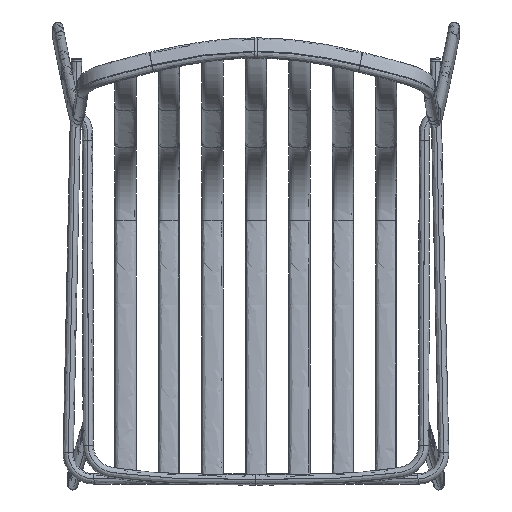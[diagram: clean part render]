
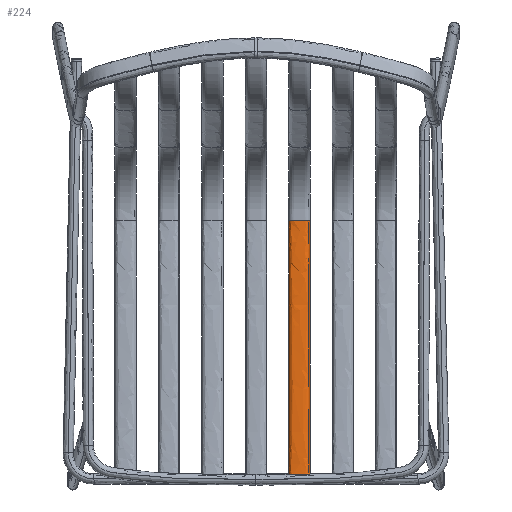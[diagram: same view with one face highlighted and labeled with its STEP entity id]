
A CAD part, top view. The second image highlights one B-rep face of the part: STEP entity #224.
In plain terms, the highlighted free-form (B-spline) face has degree [2, 3] with [7, 4] control points.
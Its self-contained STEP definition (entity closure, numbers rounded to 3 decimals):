
#224=ADVANCED_FACE('',(#640),#5631,.T.);
#640=FACE_OUTER_BOUND('',#1056,.T.);
#1056=EDGE_LOOP('',(#1517,#1518,#1519,#1520));
#1517=ORIENTED_EDGE('',*,*,#3313,.T.);
#1518=ORIENTED_EDGE('',*,*,#3317,.T.);
#1519=ORIENTED_EDGE('',*,*,#3295,.F.);
#1520=ORIENTED_EDGE('',*,*,#3318,.F.);
#3295=EDGE_CURVE('',#5111,#5108,#4563,.T.);
#3313=EDGE_CURVE('',#5120,#5121,#4205,.T.);
#3317=EDGE_CURVE('',#5121,#5108,#4569,.T.);
#3318=EDGE_CURVE('',#5120,#5111,#4570,.T.);
#4205=B_SPLINE_CURVE_WITH_KNOTS('',3,(#8339,#8340,#8341,#8342,#8343,#8344,
#8345,#8346,#8347,#8348,#8349,#8350,#8351,#8352,#8353,#8354,#8355,#8356,
#8357,#8358,#8359,#8360,#8361,#8362,#8363),.UNSPECIFIED.,.F.,.F.,(4,2,2,
2,2,3,3,2,2,3,4),(0.,2.37,4.74,7.11,
8.293,9.475,22.476,24.132,25.789,
29.117,31.982),.UNSPECIFIED.);
#4563=(
BOUNDED_CURVE()
B_SPLINE_CURVE(2,(#7998,#7999,#8000,#8001,#8002,#8003,#8004),
 .UNSPECIFIED.,.F.,.F.)
B_SPLINE_CURVE_WITH_KNOTS((3,2,2,3),(31.85,41.275,
54.275,63.7),.UNSPECIFIED.)
CURVE()
GEOMETRIC_REPRESENTATION_ITEM()
RATIONAL_B_SPLINE_CURVE((1.,0.707,1.,1.,1.,0.707,
1.))
REPRESENTATION_ITEM('')
);
#4569=(
BOUNDED_CURVE()
B_SPLINE_CURVE(3,(#8431,#8432,#8433,#8434),.UNSPECIFIED.,.F.,.F.)
B_SPLINE_CURVE_WITH_KNOTS((4,4),(6.628,303.241),
 .UNSPECIFIED.)
CURVE()
GEOMETRIC_REPRESENTATION_ITEM()
RATIONAL_B_SPLINE_CURVE((1.,1.,1.,1.))
REPRESENTATION_ITEM('')
);
#4570=(
BOUNDED_CURVE()
B_SPLINE_CURVE(3,(#8435,#8436,#8437,#8438),.UNSPECIFIED.,.F.,.F.)
B_SPLINE_CURVE_WITH_KNOTS((4,4),(6.261,303.241),
 .UNSPECIFIED.)
CURVE()
GEOMETRIC_REPRESENTATION_ITEM()
RATIONAL_B_SPLINE_CURVE((1.,1.,1.,1.))
REPRESENTATION_ITEM('')
);
#5108=VERTEX_POINT('',#7879);
#5111=VERTEX_POINT('',#7882);
#5120=VERTEX_POINT('',#7891);
#5121=VERTEX_POINT('',#7892);
#5631=(
BOUNDED_SURFACE()
B_SPLINE_SURFACE(2,3,((#7042,#7043,#7044,#7045),(#7046,#7047,#7048,#7049),
(#7050,#7051,#7052,#7053),(#7054,#7055,#7056,#7057),(#7058,#7059,#7060,
#7061),(#7062,#7063,#7064,#7065),(#7066,#7067,#7068,#7069)),
 .UNSPECIFIED.,.F.,.F.,.F.)
B_SPLINE_SURFACE_WITH_KNOTS((3,2,2,3),(4,4),(31.85,41.275,
54.275,63.7),(0.,303.241),.UNSPECIFIED.)
GEOMETRIC_REPRESENTATION_ITEM()
RATIONAL_B_SPLINE_SURFACE(((1.,1.,1.,1.),(0.707,0.707,
0.707,0.707),(1.,1.,1.,1.),(1.,1.,1.,1.),(1.,1.,
1.,1.),(0.707,0.707,0.707,0.707),
(1.,1.,1.,1.)))
REPRESENTATION_ITEM('')
SURFACE()
);
#7042=CARTESIAN_POINT('',(1038.302,-1264.153,737.079));
#7043=CARTESIAN_POINT('',(1038.302,-1163.235,731.353));
#7044=CARTESIAN_POINT('',(1038.302,-1062.317,725.627));
#7045=CARTESIAN_POINT('',(1038.302,-961.398,719.9));
#7046=CARTESIAN_POINT('',(1038.1,-1263.843,743.068));
#7047=CARTESIAN_POINT('',(1038.1,-1162.925,737.341));
#7048=CARTESIAN_POINT('',(1038.1,-1062.007,731.615));
#7049=CARTESIAN_POINT('',(1038.1,-961.089,725.889));
#7050=CARTESIAN_POINT('',(1044.097,-1263.832,743.27));
#7051=CARTESIAN_POINT('',(1044.097,-1162.914,737.543));
#7052=CARTESIAN_POINT('',(1044.097,-1061.996,731.817));
#7053=CARTESIAN_POINT('',(1044.097,-961.078,726.091));
#7054=CARTESIAN_POINT('',(1050.593,-1263.821,743.489));
#7055=CARTESIAN_POINT('',(1050.593,-1162.903,737.762));
#7056=CARTESIAN_POINT('',(1050.593,-1061.985,732.036));
#7057=CARTESIAN_POINT('',(1050.593,-961.067,726.31));
#7058=CARTESIAN_POINT('',(1057.089,-1263.81,743.707));
#7059=CARTESIAN_POINT('',(1057.089,-1162.892,737.981));
#7060=CARTESIAN_POINT('',(1057.089,-1061.974,732.255));
#7061=CARTESIAN_POINT('',(1057.089,-961.056,726.529));
#7062=CARTESIAN_POINT('',(1063.086,-1263.799,743.91));
#7063=CARTESIAN_POINT('',(1063.086,-1162.881,738.183));
#7064=CARTESIAN_POINT('',(1063.086,-1061.963,732.457));
#7065=CARTESIAN_POINT('',(1063.086,-961.045,726.731));
#7066=CARTESIAN_POINT('',(1063.288,-1264.109,737.921));
#7067=CARTESIAN_POINT('',(1063.288,-1163.191,732.195));
#7068=CARTESIAN_POINT('',(1063.288,-1062.273,726.468));
#7069=CARTESIAN_POINT('',(1063.288,-961.355,720.742));
#7879=CARTESIAN_POINT('',(1063.288,-961.355,720.742));
#7882=CARTESIAN_POINT('',(1038.302,-961.398,719.9));
#7891=CARTESIAN_POINT('',(1038.302,-1257.902,736.724));
#7892=CARTESIAN_POINT('',(1063.288,-1257.492,737.545));
#7998=CARTESIAN_POINT('',(1038.302,-961.398,719.9));
#7999=CARTESIAN_POINT('',(1038.1,-961.089,725.889));
#8000=CARTESIAN_POINT('',(1044.097,-961.078,726.091));
#8001=CARTESIAN_POINT('',(1050.593,-961.067,726.31));
#8002=CARTESIAN_POINT('',(1057.089,-961.056,726.529));
#8003=CARTESIAN_POINT('',(1063.086,-961.045,726.731));
#8004=CARTESIAN_POINT('',(1063.288,-961.355,720.742));
#8339=CARTESIAN_POINT('',(1038.302,-1257.902,736.724));
#8340=CARTESIAN_POINT('',(1038.276,-1257.876,737.511));
#8341=CARTESIAN_POINT('',(1038.405,-1257.848,738.296));
#8342=CARTESIAN_POINT('',(1038.958,-1257.791,739.771));
#8343=CARTESIAN_POINT('',(1039.377,-1257.764,740.446));
#8344=CARTESIAN_POINT('',(1040.454,-1257.712,741.596));
#8345=CARTESIAN_POINT('',(1041.1,-1257.688,742.06));
#8346=CARTESIAN_POINT('',(1042.175,-1257.658,742.547));
#8347=CARTESIAN_POINT('',(1042.548,-1257.648,742.674));
#8348=CARTESIAN_POINT('',(1043.313,-1257.632,742.853));
#8349=CARTESIAN_POINT('',(1043.704,-1257.625,742.904));
#8350=CARTESIAN_POINT('',(1044.097,-1257.62,742.917));
#8351=CARTESIAN_POINT('',(1048.428,-1257.557,743.06));
#8352=CARTESIAN_POINT('',(1052.759,-1257.486,743.202));
#8353=CARTESIAN_POINT('',(1057.089,-1257.407,743.344));
#8354=CARTESIAN_POINT('',(1057.639,-1257.397,743.362));
#8355=CARTESIAN_POINT('',(1058.188,-1257.39,743.305));
#8356=CARTESIAN_POINT('',(1059.256,-1257.38,743.041));
#8357=CARTESIAN_POINT('',(1059.769,-1257.378,742.837));
#8358=CARTESIAN_POINT('',(1061.209,-1257.38,742.021));
#8359=CARTESIAN_POINT('',(1062.001,-1257.392,741.221));
#8360=CARTESIAN_POINT('',(1062.537,-1257.415,740.255));
#8361=CARTESIAN_POINT('',(1062.999,-1257.434,739.424));
#8362=CARTESIAN_POINT('',(1063.256,-1257.461,738.495));
#8363=CARTESIAN_POINT('',(1063.288,-1257.492,737.545));
#8431=CARTESIAN_POINT('',(1063.288,-1257.492,737.545));
#8432=CARTESIAN_POINT('',(1063.288,-1158.78,731.944));
#8433=CARTESIAN_POINT('',(1063.288,-1060.067,726.343));
#8434=CARTESIAN_POINT('',(1063.288,-961.355,720.742));
#8435=CARTESIAN_POINT('',(1038.302,-1257.902,736.724));
#8436=CARTESIAN_POINT('',(1038.302,-1159.067,731.116));
#8437=CARTESIAN_POINT('',(1038.302,-1060.233,725.508));
#8438=CARTESIAN_POINT('',(1038.302,-961.398,719.9));
